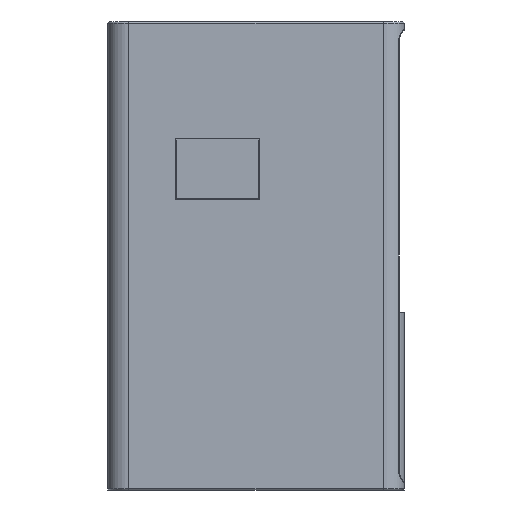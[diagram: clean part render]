
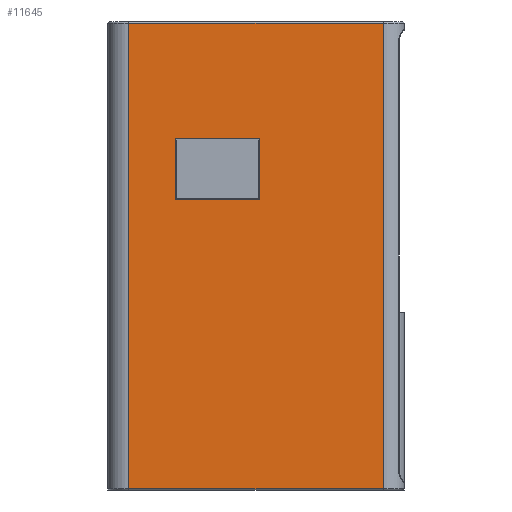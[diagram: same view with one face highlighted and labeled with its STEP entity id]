
A CAD part, left-side view. The second image highlights one B-rep face of the part: STEP entity #11645.
In plain terms, the highlighted planar face has unit normal (-1, 0, 0).
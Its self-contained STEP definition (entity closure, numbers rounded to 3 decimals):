
#5991 = CYLINDRICAL_SURFACE('',#5992,7.);
#5992 = AXIS2_PLACEMENT_3D('',#5993,#5994,#5995);
#5993 = CARTESIAN_POINT('',(7.,7.,0.));
#5994 = DIRECTION('',(0.,0.,1.));
#5995 = DIRECTION('',(-1.,-0.,0.));
#8228 = PLANE('',#8229);
#8229 = AXIS2_PLACEMENT_3D('',#8230,#8231,#8232);
#8230 = CARTESIAN_POINT('',(0.15,77.,98.35));
#8231 = DIRECTION('',(0.707,0.,-0.707
    ));
#8232 = DIRECTION('',(0.,-1.,0.));
#8282 = PLANE('',#8283);
#8283 = AXIS2_PLACEMENT_3D('',#8284,#8285,#8286);
#8284 = CARTESIAN_POINT('',(0.15,77.15,98.5));
#8285 = DIRECTION('',(-0.707,-0.707,0.
    ));
#8286 = DIRECTION('',(0.,0.,1.));
#8336 = PLANE('',#8337);
#8337 = AXIS2_PLACEMENT_3D('',#8338,#8339,#8340);
#8338 = CARTESIAN_POINT('',(0.15,48.85,98.5));
#8339 = DIRECTION('',(0.707,-0.707,0.
    ));
#8340 = DIRECTION('',(0.,0.,1.));
#8388 = PLANE('',#8389);
#8389 = AXIS2_PLACEMENT_3D('',#8390,#8391,#8392);
#8390 = CARTESIAN_POINT('',(0.15,77.,118.65));
#8391 = DIRECTION('',(-0.707,0.,-0.707
    ));
#8392 = DIRECTION('',(0.,-1.,0.));
#8456 = CYLINDRICAL_SURFACE('',#8457,0.5);
#8457 = AXIS2_PLACEMENT_3D('',#8458,#8459,#8460);
#8458 = CARTESIAN_POINT('',(0.5,7.,157.5));
#8459 = DIRECTION('',(-0.,1.,0.));
#8460 = DIRECTION('',(0.,0.,1.));
#9240 = VERTEX_POINT('',#9241);
#9241 = CARTESIAN_POINT('',(0.,7.,157.5));
#9263 = EDGE_CURVE('',#9264,#9240,#9266,.T.);
#9264 = VERTEX_POINT('',#9265);
#9265 = CARTESIAN_POINT('',(0.,7.,0.5));
#9266 = SURFACE_CURVE('',#9267,(#9271,#9278),.PCURVE_S1.);
#9267 = LINE('',#9268,#9269);
#9268 = CARTESIAN_POINT('',(0.,7.,0.));
#9269 = VECTOR('',#9270,1.);
#9270 = DIRECTION('',(0.,0.,1.));
#9271 = PCURVE('',#5991,#9272);
#9272 = DEFINITIONAL_REPRESENTATION('',(#9273),#9277);
#9273 = LINE('',#9274,#9275);
#9274 = CARTESIAN_POINT('',(0.,0.));
#9275 = VECTOR('',#9276,1.);
#9276 = DIRECTION('',(0.,1.));
#9277 = ( GEOMETRIC_REPRESENTATION_CONTEXT(2)
PARAMETRIC_REPRESENTATION_CONTEXT() REPRESENTATION_CONTEXT('2D SPACE',''
  ) );
#9278 = PCURVE('',#9279,#9284);
#9279 = PLANE('',#9280);
#9280 = AXIS2_PLACEMENT_3D('',#9281,#9282,#9283);
#9281 = CARTESIAN_POINT('',(0.,0.,0.));
#9282 = DIRECTION('',(1.,0.,-0.));
#9283 = DIRECTION('',(0.,0.,1.));
#9284 = DEFINITIONAL_REPRESENTATION('',(#9285),#9289);
#9285 = LINE('',#9286,#9287);
#9286 = CARTESIAN_POINT('',(0.,-7.));
#9287 = VECTOR('',#9288,1.);
#9288 = DIRECTION('',(1.,0.));
#9289 = ( GEOMETRIC_REPRESENTATION_CONTEXT(2)
PARAMETRIC_REPRESENTATION_CONTEXT() REPRESENTATION_CONTEXT('2D SPACE',''
  ) );
#10559 = VERTEX_POINT('',#10560);
#10560 = CARTESIAN_POINT('',(0.,77.3,98.2));
#10583 = VERTEX_POINT('',#10584);
#10584 = CARTESIAN_POINT('',(0.,48.7,98.2));
#10605 = EDGE_CURVE('',#10559,#10583,#10606,.T.);
#10606 = SURFACE_CURVE('',#10607,(#10611,#10618),.PCURVE_S1.);
#10607 = LINE('',#10608,#10609);
#10608 = CARTESIAN_POINT('',(0.,77.,98.2));
#10609 = VECTOR('',#10610,1.);
#10610 = DIRECTION('',(0.,-1.,0.));
#10611 = PCURVE('',#8228,#10612);
#10612 = DEFINITIONAL_REPRESENTATION('',(#10613),#10617);
#10613 = LINE('',#10614,#10615);
#10614 = CARTESIAN_POINT('',(0.,0.212));
#10615 = VECTOR('',#10616,1.);
#10616 = DIRECTION('',(1.,0.));
#10617 = ( GEOMETRIC_REPRESENTATION_CONTEXT(2)
PARAMETRIC_REPRESENTATION_CONTEXT() REPRESENTATION_CONTEXT('2D SPACE',''
  ) );
#10618 = PCURVE('',#9279,#10619);
#10619 = DEFINITIONAL_REPRESENTATION('',(#10620),#10624);
#10620 = LINE('',#10621,#10622);
#10621 = CARTESIAN_POINT('',(98.2,-77.));
#10622 = VECTOR('',#10623,1.);
#10623 = DIRECTION('',(0.,1.));
#10624 = ( GEOMETRIC_REPRESENTATION_CONTEXT(2)
PARAMETRIC_REPRESENTATION_CONTEXT() REPRESENTATION_CONTEXT('2D SPACE',''
  ) );
#10632 = VERTEX_POINT('',#10633);
#10633 = CARTESIAN_POINT('',(0.,77.3,118.8));
#10654 = EDGE_CURVE('',#10559,#10632,#10655,.T.);
#10655 = SURFACE_CURVE('',#10656,(#10660,#10667),.PCURVE_S1.);
#10656 = LINE('',#10657,#10658);
#10657 = CARTESIAN_POINT('',(0.,77.3,98.5));
#10658 = VECTOR('',#10659,1.);
#10659 = DIRECTION('',(0.,0.,1.));
#10660 = PCURVE('',#8282,#10661);
#10661 = DEFINITIONAL_REPRESENTATION('',(#10662),#10666);
#10662 = LINE('',#10663,#10664);
#10663 = CARTESIAN_POINT('',(0.,0.212));
#10664 = VECTOR('',#10665,1.);
#10665 = DIRECTION('',(1.,0.));
#10666 = ( GEOMETRIC_REPRESENTATION_CONTEXT(2)
PARAMETRIC_REPRESENTATION_CONTEXT() REPRESENTATION_CONTEXT('2D SPACE',''
  ) );
#10667 = PCURVE('',#9279,#10668);
#10668 = DEFINITIONAL_REPRESENTATION('',(#10669),#10673);
#10669 = LINE('',#10670,#10671);
#10670 = CARTESIAN_POINT('',(98.5,-77.3));
#10671 = VECTOR('',#10672,1.);
#10672 = DIRECTION('',(1.,0.));
#10673 = ( GEOMETRIC_REPRESENTATION_CONTEXT(2)
PARAMETRIC_REPRESENTATION_CONTEXT() REPRESENTATION_CONTEXT('2D SPACE',''
  ) );
#10681 = VERTEX_POINT('',#10682);
#10682 = CARTESIAN_POINT('',(0.,48.7,118.8));
#10703 = EDGE_CURVE('',#10583,#10681,#10704,.T.);
#10704 = SURFACE_CURVE('',#10705,(#10709,#10716),.PCURVE_S1.);
#10705 = LINE('',#10706,#10707);
#10706 = CARTESIAN_POINT('',(0.,48.7,98.5));
#10707 = VECTOR('',#10708,1.);
#10708 = DIRECTION('',(0.,0.,1.));
#10709 = PCURVE('',#8336,#10710);
#10710 = DEFINITIONAL_REPRESENTATION('',(#10711),#10715);
#10711 = LINE('',#10712,#10713);
#10712 = CARTESIAN_POINT('',(0.,0.212));
#10713 = VECTOR('',#10714,1.);
#10714 = DIRECTION('',(1.,0.));
#10715 = ( GEOMETRIC_REPRESENTATION_CONTEXT(2)
PARAMETRIC_REPRESENTATION_CONTEXT() REPRESENTATION_CONTEXT('2D SPACE',''
  ) );
#10716 = PCURVE('',#9279,#10717);
#10717 = DEFINITIONAL_REPRESENTATION('',(#10718),#10722);
#10718 = LINE('',#10719,#10720);
#10719 = CARTESIAN_POINT('',(98.5,-48.7));
#10720 = VECTOR('',#10721,1.);
#10721 = DIRECTION('',(1.,0.));
#10722 = ( GEOMETRIC_REPRESENTATION_CONTEXT(2)
PARAMETRIC_REPRESENTATION_CONTEXT() REPRESENTATION_CONTEXT('2D SPACE',''
  ) );
#10730 = EDGE_CURVE('',#10632,#10681,#10731,.T.);
#10731 = SURFACE_CURVE('',#10732,(#10736,#10743),.PCURVE_S1.);
#10732 = LINE('',#10733,#10734);
#10733 = CARTESIAN_POINT('',(0.,77.,118.8));
#10734 = VECTOR('',#10735,1.);
#10735 = DIRECTION('',(0.,-1.,0.));
#10736 = PCURVE('',#8388,#10737);
#10737 = DEFINITIONAL_REPRESENTATION('',(#10738),#10742);
#10738 = LINE('',#10739,#10740);
#10739 = CARTESIAN_POINT('',(0.,0.212));
#10740 = VECTOR('',#10741,1.);
#10741 = DIRECTION('',(1.,0.));
#10742 = ( GEOMETRIC_REPRESENTATION_CONTEXT(2)
PARAMETRIC_REPRESENTATION_CONTEXT() REPRESENTATION_CONTEXT('2D SPACE',''
  ) );
#10743 = PCURVE('',#9279,#10744);
#10744 = DEFINITIONAL_REPRESENTATION('',(#10745),#10749);
#10745 = LINE('',#10746,#10747);
#10746 = CARTESIAN_POINT('',(118.8,-77.));
#10747 = VECTOR('',#10748,1.);
#10748 = DIRECTION('',(0.,1.));
#10749 = ( GEOMETRIC_REPRESENTATION_CONTEXT(2)
PARAMETRIC_REPRESENTATION_CONTEXT() REPRESENTATION_CONTEXT('2D SPACE',''
  ) );
#10755 = VERTEX_POINT('',#10756);
#10756 = CARTESIAN_POINT('',(0.,93.,157.5));
#10814 = CYLINDRICAL_SURFACE('',#10815,7.);
#10815 = AXIS2_PLACEMENT_3D('',#10816,#10817,#10818);
#10816 = CARTESIAN_POINT('',(7.,93.,0.));
#10817 = DIRECTION('',(0.,0.,1.));
#10818 = DIRECTION('',(-1.,-0.,0.));
#10849 = EDGE_CURVE('',#9240,#10755,#10850,.T.);
#10850 = SURFACE_CURVE('',#10851,(#10855,#10862),.PCURVE_S1.);
#10851 = LINE('',#10852,#10853);
#10852 = CARTESIAN_POINT('',(0.,7.,157.5));
#10853 = VECTOR('',#10854,1.);
#10854 = DIRECTION('',(-0.,1.,0.));
#10855 = PCURVE('',#8456,#10856);
#10856 = DEFINITIONAL_REPRESENTATION('',(#10857),#10861);
#10857 = LINE('',#10858,#10859);
#10858 = CARTESIAN_POINT('',(-1.571,0.));
#10859 = VECTOR('',#10860,1.);
#10860 = DIRECTION('',(-0.,1.));
#10861 = ( GEOMETRIC_REPRESENTATION_CONTEXT(2)
PARAMETRIC_REPRESENTATION_CONTEXT() REPRESENTATION_CONTEXT('2D SPACE',''
  ) );
#10862 = PCURVE('',#9279,#10863);
#10863 = DEFINITIONAL_REPRESENTATION('',(#10864),#10868);
#10864 = LINE('',#10865,#10866);
#10865 = CARTESIAN_POINT('',(157.5,-7.));
#10866 = VECTOR('',#10867,1.);
#10867 = DIRECTION('',(0.,-1.));
#10868 = ( GEOMETRIC_REPRESENTATION_CONTEXT(2)
PARAMETRIC_REPRESENTATION_CONTEXT() REPRESENTATION_CONTEXT('2D SPACE',''
  ) );
#11634 = CYLINDRICAL_SURFACE('',#11635,0.5);
#11635 = AXIS2_PLACEMENT_3D('',#11636,#11637,#11638);
#11636 = CARTESIAN_POINT('',(0.5,7.,0.5));
#11637 = DIRECTION('',(-0.,1.,0.));
#11638 = DIRECTION('',(-0.,0.,-1.));
#11645 = ADVANCED_FACE('',(#11646,#11652),#9279,.F.);
#11646 = FACE_BOUND('',#11647,.F.);
#11647 = EDGE_LOOP('',(#11648,#11649,#11650,#11651));
#11648 = ORIENTED_EDGE('',*,*,#10605,.T.);
#11649 = ORIENTED_EDGE('',*,*,#10703,.T.);
#11650 = ORIENTED_EDGE('',*,*,#10730,.F.);
#11651 = ORIENTED_EDGE('',*,*,#10654,.F.);
#11652 = FACE_BOUND('',#11653,.F.);
#11653 = EDGE_LOOP('',(#11654,#11655,#11678,#11699));
#11654 = ORIENTED_EDGE('',*,*,#9263,.F.);
#11655 = ORIENTED_EDGE('',*,*,#11656,.T.);
#11656 = EDGE_CURVE('',#9264,#11657,#11659,.T.);
#11657 = VERTEX_POINT('',#11658);
#11658 = CARTESIAN_POINT('',(0.,93.,0.5));
#11659 = SURFACE_CURVE('',#11660,(#11664,#11671),.PCURVE_S1.);
#11660 = LINE('',#11661,#11662);
#11661 = CARTESIAN_POINT('',(0.,7.,0.5));
#11662 = VECTOR('',#11663,1.);
#11663 = DIRECTION('',(-0.,1.,0.));
#11664 = PCURVE('',#9279,#11665);
#11665 = DEFINITIONAL_REPRESENTATION('',(#11666),#11670);
#11666 = LINE('',#11667,#11668);
#11667 = CARTESIAN_POINT('',(0.5,-7.));
#11668 = VECTOR('',#11669,1.);
#11669 = DIRECTION('',(0.,-1.));
#11670 = ( GEOMETRIC_REPRESENTATION_CONTEXT(2)
PARAMETRIC_REPRESENTATION_CONTEXT() REPRESENTATION_CONTEXT('2D SPACE',''
  ) );
#11671 = PCURVE('',#11634,#11672);
#11672 = DEFINITIONAL_REPRESENTATION('',(#11673),#11677);
#11673 = LINE('',#11674,#11675);
#11674 = CARTESIAN_POINT('',(1.571,0.));
#11675 = VECTOR('',#11676,1.);
#11676 = DIRECTION('',(0.,1.));
#11677 = ( GEOMETRIC_REPRESENTATION_CONTEXT(2)
PARAMETRIC_REPRESENTATION_CONTEXT() REPRESENTATION_CONTEXT('2D SPACE',''
  ) );
#11678 = ORIENTED_EDGE('',*,*,#11679,.T.);
#11679 = EDGE_CURVE('',#11657,#10755,#11680,.T.);
#11680 = SURFACE_CURVE('',#11681,(#11685,#11692),.PCURVE_S1.);
#11681 = LINE('',#11682,#11683);
#11682 = CARTESIAN_POINT('',(0.,93.,0.));
#11683 = VECTOR('',#11684,1.);
#11684 = DIRECTION('',(0.,0.,1.));
#11685 = PCURVE('',#9279,#11686);
#11686 = DEFINITIONAL_REPRESENTATION('',(#11687),#11691);
#11687 = LINE('',#11688,#11689);
#11688 = CARTESIAN_POINT('',(0.,-93.));
#11689 = VECTOR('',#11690,1.);
#11690 = DIRECTION('',(1.,0.));
#11691 = ( GEOMETRIC_REPRESENTATION_CONTEXT(2)
PARAMETRIC_REPRESENTATION_CONTEXT() REPRESENTATION_CONTEXT('2D SPACE',''
  ) );
#11692 = PCURVE('',#10814,#11693);
#11693 = DEFINITIONAL_REPRESENTATION('',(#11694),#11698);
#11694 = LINE('',#11695,#11696);
#11695 = CARTESIAN_POINT('',(-0.,0.));
#11696 = VECTOR('',#11697,1.);
#11697 = DIRECTION('',(-0.,1.));
#11698 = ( GEOMETRIC_REPRESENTATION_CONTEXT(2)
PARAMETRIC_REPRESENTATION_CONTEXT() REPRESENTATION_CONTEXT('2D SPACE',''
  ) );
#11699 = ORIENTED_EDGE('',*,*,#10849,.F.);
